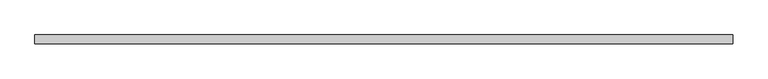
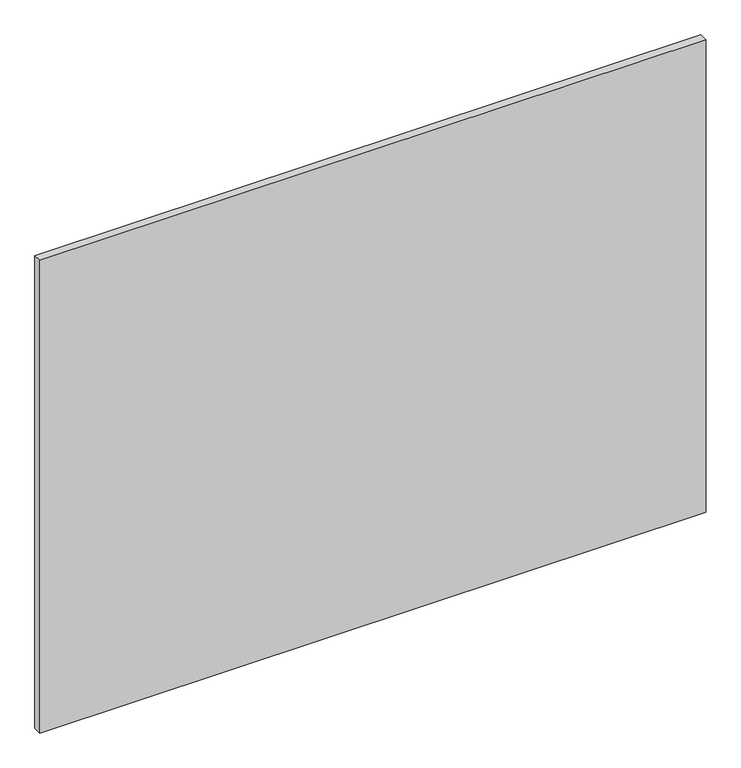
"""IFC4 building model written with IfcOpenShell, lengths in millimetres: plate geometry, 系统嵌板 : 玻璃."""

from ifc_helpers import new_model, si_unit, origin, origin_with_axes, place, context, project, spatial, polyline, outline, extrude, source, transform, mapped, element, save


def plate_a38b8537(model_context):
    return source(origin(), model_context, "Body", "SweptSolid", [
        extrude(outline(polyline([(1000.0, -12.5), (-1000.0, -12.5), (-1000.0, 12.5), (1000.0, 12.5), (1000.0, -12.5)])), origin_with_axes(), (0.0, 0.0, 1.0), 1500.0),
    ])


if __name__ == "__main__":
    model = new_model("IFC4")
    model_context = context("Model", 3, world=origin())
    ifc_project = project(units=[si_unit("LENGTHUNIT", "METRE", prefix="MILLI")], contexts=[model_context])
    site = spatial("IfcSite", under=ifc_project)
    building = spatial("IfcBuilding", under=site)
    placement = place(None, origin())
    plate_shape = plate_a38b8537(model_context)
    element("IfcPlate", 1, ObjectType="系统嵌板 : 玻璃", at=placement, inside=building, context=model_context, shape_type="MappedRepresentation", body=[
        mapped(plate_shape, transform((0.0, 0.0, 0.0), x_axis=(1.0, 0.0, 0.0), y_axis=(0.0, 1.0, 0.0), z_axis=(0.0, 0.0, 1.0))),
    ])
    save(model, "model.ifc")
